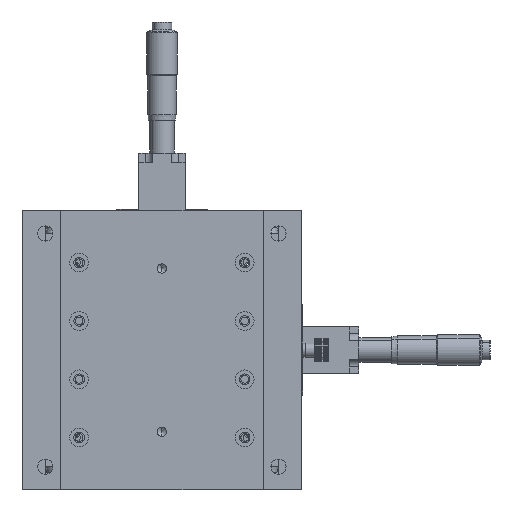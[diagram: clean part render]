
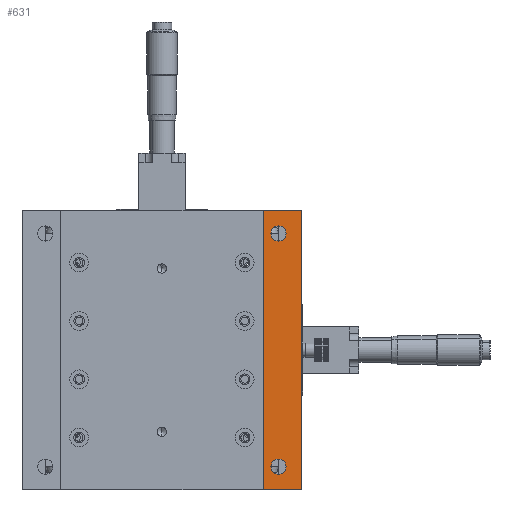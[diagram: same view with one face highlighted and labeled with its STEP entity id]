
A CAD part, front view. The second image highlights one B-rep face of the part: STEP entity #631.
In plain terms, the highlighted planar face has unit normal (0, -1, 0).
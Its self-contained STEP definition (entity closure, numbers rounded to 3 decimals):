
#2 = ORIENTED_EDGE ( 'NONE', *, *, #10215, .F. ) ;
#631 = ADVANCED_FACE ( 'NONE', ( #3908, #13940, #5292 ), #7440, .F. ) ;
#1020 = VERTEX_POINT ( 'NONE', #22013 ) ;
#1024 = CARTESIAN_POINT ( 'NONE',  ( -60., 0., -60. ) ) ;
#1426 = VERTEX_POINT ( 'NONE', #7985 ) ;
#1517 = VERTEX_POINT ( 'NONE', #23426 ) ;
#1860 = CARTESIAN_POINT ( 'NONE',  ( 60., 0., -60. ) ) ;
#2462 = DIRECTION ( 'NONE',  ( 0., 0., -1. ) ) ;
#2758 = LINE ( 'NONE', #11214, #22037 ) ;
#3568 = EDGE_LOOP ( 'NONE', ( #15573, #2, #16842, #14888 ) ) ;
#3908 = FACE_BOUND ( 'NONE', #19698, .T. ) ;
#4033 = VERTEX_POINT ( 'NONE', #24733 ) ;
#4271 = DIRECTION ( 'NONE',  ( 0., 0., 1. ) ) ;
#4459 = EDGE_CURVE ( 'NONE', #1517, #1020, #6025, .T. ) ;
#4721 = DIRECTION ( 'NONE',  ( 0., 1., 0. ) ) ;
#4840 = CARTESIAN_POINT ( 'NONE',  ( 43.5, 0., 60. ) ) ;
#5179 = AXIS2_PLACEMENT_3D ( 'NONE', #24990, #7528, #27187 ) ;
#5228 = CARTESIAN_POINT ( 'NONE',  ( 50., 0., 50. ) ) ;
#5292 = FACE_OUTER_BOUND ( 'NONE', #3568, .T. ) ;
#5406 = VERTEX_POINT ( 'NONE', #24357 ) ;
#5865 = EDGE_CURVE ( 'NONE', #5406, #4033, #10166, .T. ) ;
#6025 = CIRCLE ( 'NONE', #11377, 3.25 ) ;
#6092 = LINE ( 'NONE', #1024, #14036 ) ;
#6309 = LINE ( 'NONE', #26678, #20068 ) ;
#7440 = PLANE ( 'NONE',  #5179 ) ;
#7528 = DIRECTION ( 'NONE',  ( 0., 1., 0. ) ) ;
#7882 = ORIENTED_EDGE ( 'NONE', *, *, #17967, .T. ) ;
#7985 = CARTESIAN_POINT ( 'NONE',  ( 60., 0., 60. ) ) ;
#8299 = EDGE_LOOP ( 'NONE', ( #23096, #7882 ) ) ;
#8361 = VERTEX_POINT ( 'NONE', #1860 ) ;
#9322 = AXIS2_PLACEMENT_3D ( 'NONE', #5228, #12184, #14393 ) ;
#10166 = CIRCLE ( 'NONE', #22388, 3.25 ) ;
#10215 = EDGE_CURVE ( 'NONE', #25014, #19866, #24432, .T. ) ;
#10414 = VECTOR ( 'NONE', #11334, 1000. ) ;
#11214 = CARTESIAN_POINT ( 'NONE',  ( -60., 0., 60. ) ) ;
#11334 = DIRECTION ( 'NONE',  ( 0., 0., 1. ) ) ;
#11377 = AXIS2_PLACEMENT_3D ( 'NONE', #16010, #4721, #24509 ) ;
#11726 = ORIENTED_EDGE ( 'NONE', *, *, #25235, .T. ) ;
#12117 = CIRCLE ( 'NONE', #9322, 3.25 ) ;
#12184 = DIRECTION ( 'NONE',  ( 0., 1., 0. ) ) ;
#12906 = AXIS2_PLACEMENT_3D ( 'NONE', #22068, #26192, #4271 ) ;
#12909 = CARTESIAN_POINT ( 'NONE',  ( 43.5, 0., -60. ) ) ;
#13940 = FACE_BOUND ( 'NONE', #8299, .T. ) ;
#14036 = VECTOR ( 'NONE', #16566, 1000. ) ;
#14393 = DIRECTION ( 'NONE',  ( 0., 0., 1. ) ) ;
#14888 = ORIENTED_EDGE ( 'NONE', *, *, #20477, .F. ) ;
#15573 = ORIENTED_EDGE ( 'NONE', *, *, #25639, .F. ) ;
#16010 = CARTESIAN_POINT ( 'NONE',  ( 50., 0., 50. ) ) ;
#16388 = DIRECTION ( 'NONE',  ( 0., 0., 1. ) ) ;
#16427 = CIRCLE ( 'NONE', #12906, 3.25 ) ;
#16566 = DIRECTION ( 'NONE',  ( 1., 0., 0. ) ) ;
#16842 = ORIENTED_EDGE ( 'NONE', *, *, #18733, .T. ) ;
#17967 = EDGE_CURVE ( 'NONE', #4033, #5406, #16427, .T. ) ;
#18733 = EDGE_CURVE ( 'NONE', #25014, #8361, #6092, .T. ) ;
#19627 = ORIENTED_EDGE ( 'NONE', *, *, #4459, .T. ) ;
#19698 = EDGE_LOOP ( 'NONE', ( #11726, #19627 ) ) ;
#19834 = DIRECTION ( 'NONE',  ( 1., 0., 0. ) ) ;
#19866 = VERTEX_POINT ( 'NONE', #25169 ) ;
#20068 = VECTOR ( 'NONE', #2462, 1000. ) ;
#20477 = EDGE_CURVE ( 'NONE', #1426, #8361, #6309, .T. ) ;
#20485 = DIRECTION ( 'NONE',  ( 0., 1., 0. ) ) ;
#22013 = CARTESIAN_POINT ( 'NONE',  ( 50., 0., 53.25 ) ) ;
#22037 = VECTOR ( 'NONE', #19834, 1000. ) ;
#22068 = CARTESIAN_POINT ( 'NONE',  ( 50., 0., -50. ) ) ;
#22388 = AXIS2_PLACEMENT_3D ( 'NONE', #24231, #20485, #16388 ) ;
#23096 = ORIENTED_EDGE ( 'NONE', *, *, #5865, .T. ) ;
#23426 = CARTESIAN_POINT ( 'NONE',  ( 50., 0., 46.75 ) ) ;
#24231 = CARTESIAN_POINT ( 'NONE',  ( 50., 0., -50. ) ) ;
#24357 = CARTESIAN_POINT ( 'NONE',  ( 50., 0., -46.75 ) ) ;
#24432 = LINE ( 'NONE', #4840, #10414 ) ;
#24509 = DIRECTION ( 'NONE',  ( 0., 0., 1. ) ) ;
#24733 = CARTESIAN_POINT ( 'NONE',  ( 50., 0., -53.25 ) ) ;
#24990 = CARTESIAN_POINT ( 'NONE',  ( -60., 0., 60. ) ) ;
#25014 = VERTEX_POINT ( 'NONE', #12909 ) ;
#25169 = CARTESIAN_POINT ( 'NONE',  ( 43.5, 0., 60. ) ) ;
#25235 = EDGE_CURVE ( 'NONE', #1020, #1517, #12117, .T. ) ;
#25639 = EDGE_CURVE ( 'NONE', #19866, #1426, #2758, .T. ) ;
#26192 = DIRECTION ( 'NONE',  ( 0., 1., 0. ) ) ;
#26678 = CARTESIAN_POINT ( 'NONE',  ( 60., 0., 60. ) ) ;
#27187 = DIRECTION ( 'NONE',  ( 0., 0., 1. ) ) ;
